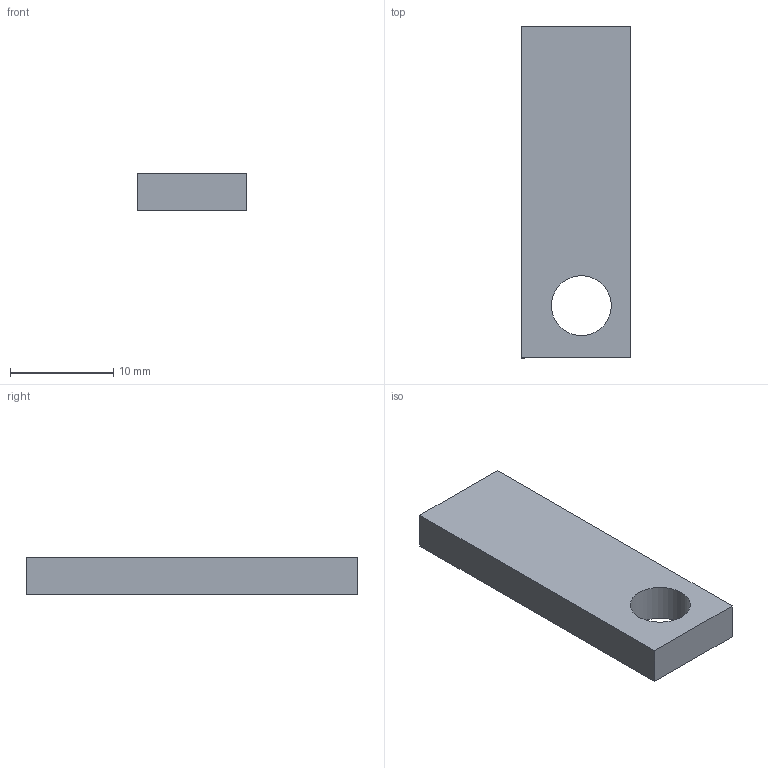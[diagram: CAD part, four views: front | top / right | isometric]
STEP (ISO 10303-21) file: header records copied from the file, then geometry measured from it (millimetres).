
FILE_DESCRIPTION(/* description */ ('STEP AP242 Edition 2','CAx-IF Rec.Pracs.---Representation and Presentation of Product Manufacturing Information (PMI)---4.0---2014-10-13','CAx-IF Rec.Pracs.---3D Tessellated Geometry---0.4---2014-09-14','2;1','CAx-IF Rec.Pracs.---User Defined Attributes---1.5---2016-08-15'),/* implementation_level */ '2;1');
FILE_NAME(/* name */ 'Final Build - Limit_Switch_mount',/* time_stamp */ '2026-08-31T23:26:10Z',/* author */ (''),/* organization */ (''),/* preprocessor_version */ 'ST-DEVELOPER v20',/* originating_system */ 'ONSHAPE BY PTC INC, 1.220',/* authorisation */ ' ');
FILE_SCHEMA (('AP242_MANAGED_MODEL_BASED_3D_ENGINEERING_MIM_LF { 1 0 10303 442 3 1 4 }'));
Length unit declared in the file: metre
Products named in the file (1): Limit_Switch_mount
Bounding box: 10.61 x 32.12 x 3.65 mm (x, y, z)
Volume: 1147.6 mm3; surface area: 1007.3 mm2
Topology: 1 solids, 1 shells, 7 faces, 15 edges, 10 vertices
Faces by surface type: plane 6, cylinder 1
Full cylindrical faces by diameter (mm): 5.8 x1
Entity records: 212 total; most frequent: DIRECTION 32, CARTESIAN_POINT 32, ORIENTED_EDGE 28, EDGE_CURVE 14, LINE 12, VECTOR 12, VERTEX_POINT 10, EDGE_LOOP 10
